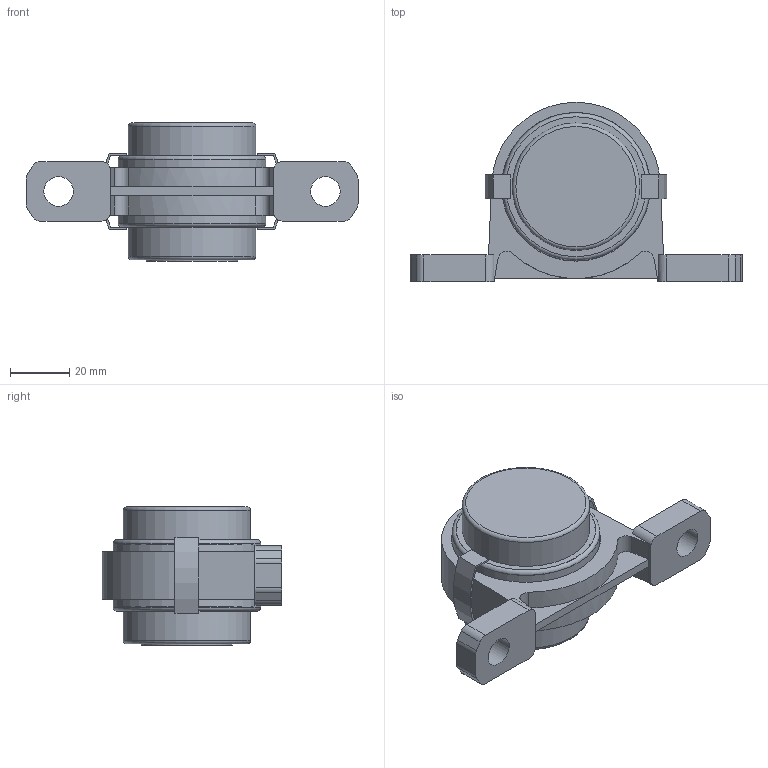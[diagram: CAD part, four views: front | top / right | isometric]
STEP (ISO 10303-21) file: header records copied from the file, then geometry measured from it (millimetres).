
FILE_DESCRIPTION((''),'2;1');
FILE_NAME('\\Ts-tgl068\j-cad-d-base\00.3DCADデータ作成フォルダ\11.エコシリーズ\MUSP000\MUSP005E.stp','2014-11-12T09:23:20',('btec_1106_2'),(''),'Autodesk Inventor 2012','Autodesk Inventor 2012','');
FILE_SCHEMA(('AUTOMOTIVE_DESIGN { 1 0 10303 214 1 1 1 1 }'));
Length unit declared in the file: millimetre
Products named in the file (6): MUSP000C; SP005; U005; 05-6CPE; 5CLP; 05-6CP25
Assembly tree (6 placements, depth 2):
  MUSP000C
    SP005
    U005
    05-6CPE
    5CLP  x2
    05-6CP25
Bounding box: 112 x 60.5 x 46.6 mm (x, y, z)
Volume: 50996.4 mm3; surface area: 37899.5 mm2
Topology: 6 solids, 6 shells, 131 faces, 300 edges, 194 vertices
Faces by surface type: plane 72, cylinder 46, torus 8, cone 3, sphere 2
Full cylindrical faces by diameter (mm): 3.5 x1, 10 x2, 25 x2, 30.8 x2, 31.7 x1, 36 x1, 42.4 x2, 43 x2, 49.2 x2, 49.8 x2, 50.2 x2
Entity records: 3511 total; most frequent: CARTESIAN_POINT 677, DIRECTION 598, ORIENTED_EDGE 472, AXIS2_PLACEMENT_3D 236, EDGE_CURVE 236, EDGE_LOOP 180, VERTEX_POINT 172, VECTOR 126
